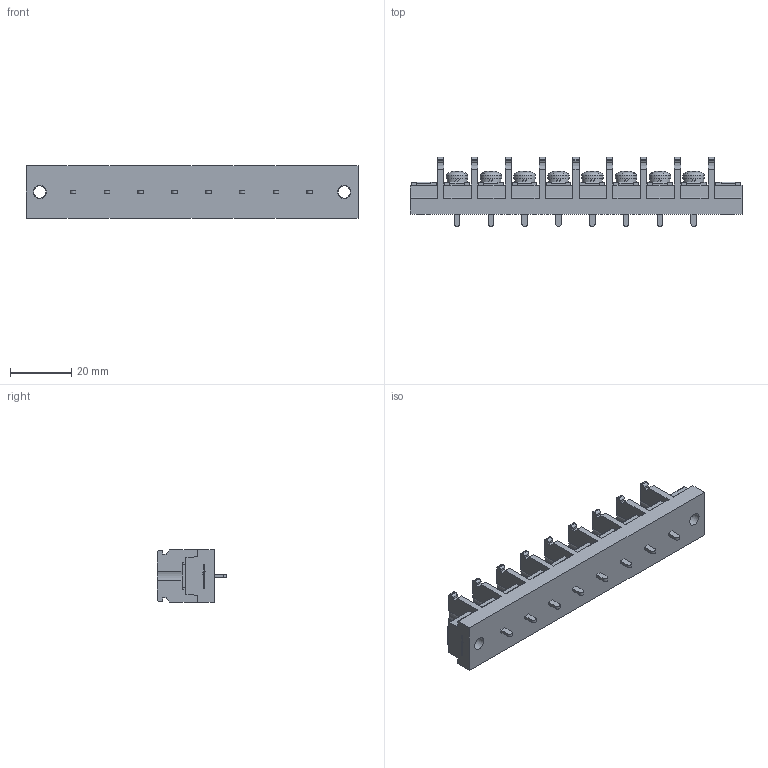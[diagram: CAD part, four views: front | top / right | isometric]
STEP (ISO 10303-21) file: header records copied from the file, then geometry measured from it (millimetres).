
FILE_DESCRIPTION(/* description */ ('Alibre Inc.'),/* implementation_level */ '2;1');
FILE_NAME(/* name */ 'export0',/* time_stamp */ '2015-10-19T19:09:52+09:00',/* author */ (''),/* organization */ (''),/* preprocessor_version */ 'ST-DEVELOPER v14',/* originating_system */ 'Alibre',/* authorisation */ '');
FILE_SCHEMA (('CONFIG_CONTROL_DESIGN'));
Length unit declared in the file: centimetre
Products named in the file (1): ID_1
Bounding box: 108 x 22.5 x 17 mm (x, y, z)
Volume: 19496.2 mm3; surface area: 10951.6 mm2
Topology: 1 solids, 1 shells, 1044 faces, 2900 edges, 1926 vertices
Faces by surface type: plane 734, cylinder 150, bspline 104, cone 32, torus 16, sphere 8
Full cylindrical faces by diameter (mm): 4 x10, 4.2 x2, 6.5 x8, 7 x8
Entity records: 32345 total; most frequent: CARTESIAN_POINT 6945, ORIENTED_EDGE 5676, DIRECTION 4216, EDGE_CURVE 2838, VECTOR 2014, LINE 2014, VERTEX_POINT 1900, AXIS2_PLACEMENT_3D 1463
